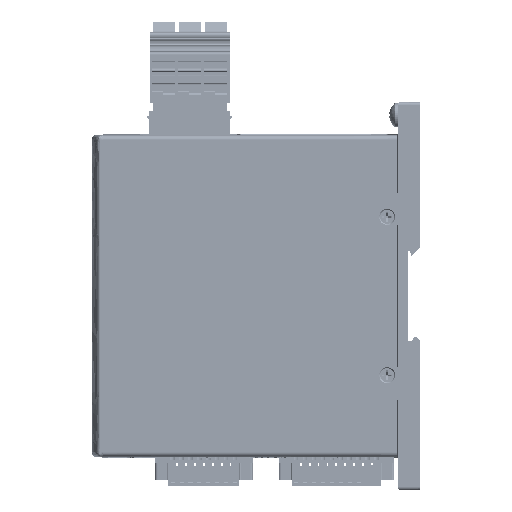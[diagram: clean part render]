
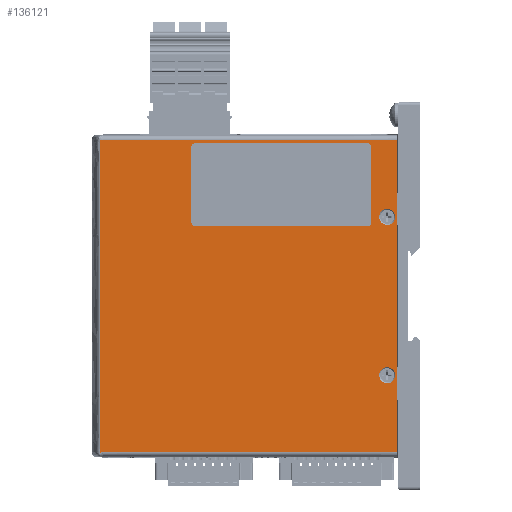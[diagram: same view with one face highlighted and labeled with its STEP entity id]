
A CAD part, left-side view. The second image highlights one B-rep face of the part: STEP entity #136121.
In plain terms, the highlighted planar face has unit normal (-1, 0, 0) as drawn and (0, 0, -1) by its records, which use the part's own axes.
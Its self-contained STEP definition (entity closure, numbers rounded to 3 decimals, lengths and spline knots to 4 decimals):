
#2847=B_SPLINE_CURVE_WITH_KNOTS('',3,(#196868,#196869,#196870,#196871),
 .UNSPECIFIED.,.F.,.F.,(4,4),(0.5,1.),.UNSPECIFIED.);
#2849=B_SPLINE_CURVE_WITH_KNOTS('',3,(#196918,#196919,#196920,#196921),
 .UNSPECIFIED.,.F.,.F.,(4,4),(0.,0.5),.UNSPECIFIED.);
#2863=B_SPLINE_CURVE_WITH_KNOTS('',3,(#197353,#197354,#197355,#197356),
 .UNSPECIFIED.,.F.,.F.,(4,4),(0.5,1.),.UNSPECIFIED.);
#2865=B_SPLINE_CURVE_WITH_KNOTS('',3,(#197428,#197429,#197430,#197431),
 .UNSPECIFIED.,.F.,.F.,(4,4),(0.,0.5),.UNSPECIFIED.);
#4153=ELLIPSE('',#144308,0.05,0.05);
#4155=ELLIPSE('',#144312,0.05,0.05);
#4158=ELLIPSE('',#144318,0.05,0.05);
#4159=ELLIPSE('',#144321,0.05,0.05);
#4896=FACE_BOUND('',#19966,.T.);
#4897=FACE_BOUND('',#19967,.T.);
#4898=FACE_BOUND('',#19968,.T.);
#6662=PLANE('',#144594);
#12352=FACE_OUTER_BOUND('',#19965,.T.);
#19965=EDGE_LOOP('',(#102735,#102736,#102737,#102738,#102739,#102740,#102741,
#102742));
#19966=EDGE_LOOP('',(#102743,#102744,#102745,#102746,#102747,#102748,#102749,
#102750));
#19967=EDGE_LOOP('',(#102751));
#19968=EDGE_LOOP('',(#102752));
#29557=LINE('',#207896,#44756);
#29563=LINE('',#207917,#44762);
#29566=LINE('',#207925,#44765);
#29568=LINE('',#207930,#44767);
#29599=LINE('',#208024,#44798);
#29822=LINE('',#209795,#45021);
#29823=LINE('',#209847,#45022);
#29825=LINE('',#209851,#45024);
#44756=VECTOR('',#160954,0.3937);
#44762=VECTOR('',#160974,0.3937);
#44765=VECTOR('',#160983,0.3937);
#44767=VECTOR('',#160991,0.3937);
#44798=VECTOR('',#161110,0.3937);
#45021=VECTOR('',#161777,0.3937);
#45022=VECTOR('',#161780,0.3937);
#45024=VECTOR('',#161786,0.3937);
#56682=CIRCLE('',#144356,0.124);
#56684=CIRCLE('',#144360,0.124);
#61357=VERTEX_POINT('',#196860);
#61358=VERTEX_POINT('',#196867);
#61360=VERTEX_POINT('',#196916);
#61377=VERTEX_POINT('',#197345);
#61378=VERTEX_POINT('',#197352);
#61380=VERTEX_POINT('',#197426);
#62654=VERTEX_POINT('',#207886);
#62655=VERTEX_POINT('',#207888);
#62657=VERTEX_POINT('',#207894);
#62660=VERTEX_POINT('',#207901);
#62661=VERTEX_POINT('',#207903);
#62665=VERTEX_POINT('',#207916);
#62666=VERTEX_POINT('',#207920);
#62667=VERTEX_POINT('',#207924);
#62675=VERTEX_POINT('',#207988);
#62677=VERTEX_POINT('',#207996);
#62685=VERTEX_POINT('',#208021);
#62686=VERTEX_POINT('',#208023);
#75452=EDGE_CURVE('',#61357,#61358,#2847,.T.);
#75456=EDGE_CURVE('',#61360,#61357,#2849,.T.);
#75478=EDGE_CURVE('',#61377,#61378,#2863,.T.);
#75482=EDGE_CURVE('',#61380,#61377,#2865,.T.);
#77305=EDGE_CURVE('',#62654,#62655,#4153,.T.);
#77309=EDGE_CURVE('',#62654,#62657,#29557,.T.);
#77312=EDGE_CURVE('',#62660,#62661,#4155,.T.);
#77319=EDGE_CURVE('',#62665,#62661,#29563,.T.);
#77321=EDGE_CURVE('',#62665,#62666,#4158,.T.);
#77323=EDGE_CURVE('',#62667,#62666,#29566,.T.);
#77325=EDGE_CURVE('',#62667,#62657,#4159,.T.);
#77326=EDGE_CURVE('',#62660,#62655,#29568,.T.);
#77351=EDGE_CURVE('',#62675,#62675,#56682,.T.);
#77355=EDGE_CURVE('',#62677,#62677,#56684,.T.);
#77369=EDGE_CURVE('',#62685,#62686,#29599,.T.);
#77717=EDGE_CURVE('',#61358,#61380,#29822,.T.);
#77718=EDGE_CURVE('',#62686,#61360,#29823,.T.);
#77720=EDGE_CURVE('',#61378,#62685,#29825,.T.);
#102735=ORIENTED_EDGE('',*,*,#77369,.F.);
#102736=ORIENTED_EDGE('',*,*,#77720,.F.);
#102737=ORIENTED_EDGE('',*,*,#75478,.F.);
#102738=ORIENTED_EDGE('',*,*,#75482,.F.);
#102739=ORIENTED_EDGE('',*,*,#77717,.F.);
#102740=ORIENTED_EDGE('',*,*,#75452,.F.);
#102741=ORIENTED_EDGE('',*,*,#75456,.F.);
#102742=ORIENTED_EDGE('',*,*,#77718,.F.);
#102743=ORIENTED_EDGE('',*,*,#77319,.T.);
#102744=ORIENTED_EDGE('',*,*,#77312,.F.);
#102745=ORIENTED_EDGE('',*,*,#77326,.T.);
#102746=ORIENTED_EDGE('',*,*,#77305,.F.);
#102747=ORIENTED_EDGE('',*,*,#77309,.T.);
#102748=ORIENTED_EDGE('',*,*,#77325,.F.);
#102749=ORIENTED_EDGE('',*,*,#77323,.T.);
#102750=ORIENTED_EDGE('',*,*,#77321,.F.);
#102751=ORIENTED_EDGE('',*,*,#77351,.T.);
#102752=ORIENTED_EDGE('',*,*,#77355,.T.);
#136121=ADVANCED_FACE('',(#12352,#4896,#4897,#4898),#6662,.F.);
#144308=AXIS2_PLACEMENT_3D('',#207889,#160947,#160948);
#144312=AXIS2_PLACEMENT_3D('',#207904,#160960,#160961);
#144318=AXIS2_PLACEMENT_3D('',#207921,#160978,#160979);
#144321=AXIS2_PLACEMENT_3D('',#207928,#160987,#160988);
#144356=AXIS2_PLACEMENT_3D('',#207989,#161075,#161076);
#144360=AXIS2_PLACEMENT_3D('',#207997,#161085,#161086);
#144594=AXIS2_PLACEMENT_3D('',#209909,#161791,#161792);
#160947=DIRECTION('center_axis',(0.,0.,-1.));
#160948=DIRECTION('ref_axis',(0.707,-0.707,0.));
#160954=DIRECTION('',(0.,1.,0.));
#160960=DIRECTION('center_axis',(0.,0.,-1.));
#160961=DIRECTION('ref_axis',(-0.707,-0.707,0.));
#160974=DIRECTION('',(0.,-1.,0.));
#160978=DIRECTION('center_axis',(0.,0.,-1.));
#160979=DIRECTION('ref_axis',(-0.707,0.707,0.));
#160983=DIRECTION('',(-1.,0.,0.));
#160987=DIRECTION('center_axis',(0.,0.,-1.));
#160988=DIRECTION('ref_axis',(0.707,0.707,0.));
#160991=DIRECTION('',(1.,0.,0.));
#161075=DIRECTION('center_axis',(0.,0.,1.));
#161076=DIRECTION('ref_axis',(-1.,0.,0.));
#161085=DIRECTION('center_axis',(0.,0.,1.));
#161086=DIRECTION('ref_axis',(-1.,0.,0.));
#161110=DIRECTION('',(1.,0.,0.));
#161777=DIRECTION('',(-1.,0.,0.));
#161780=DIRECTION('',(0.,1.,0.));
#161786=DIRECTION('',(0.,-1.,0.));
#161791=DIRECTION('center_axis',(0.,0.,1.));
#161792=DIRECTION('ref_axis',(1.,0.,0.));
#196860=CARTESIAN_POINT('',(-0.0673,4.5777,0.));
#196867=CARTESIAN_POINT('',(-0.0743,4.5989,0.));
#196868=CARTESIAN_POINT('Ctrl Pts',(-0.0673,4.5777,
0.));
#196869=CARTESIAN_POINT('Ctrl Pts',(-0.0649,4.5895,
0.));
#196870=CARTESIAN_POINT('Ctrl Pts',(-0.0649,4.5989,
0.));
#196871=CARTESIAN_POINT('Ctrl Pts',(-0.0743,4.5989,
0.));
#196916=CARTESIAN_POINT('',(-0.0743,4.5422,0.));
#196918=CARTESIAN_POINT('Ctrl Pts',(-0.0743,4.5422,
0.));
#196919=CARTESIAN_POINT('Ctrl Pts',(-0.0743,4.5517,
0.));
#196920=CARTESIAN_POINT('Ctrl Pts',(-0.0696,4.5658,
0.));
#196921=CARTESIAN_POINT('Ctrl Pts',(-0.0673,4.5777,
0.));
#197345=CARTESIAN_POINT('',(-4.9067,4.5777,0.));
#197352=CARTESIAN_POINT('',(-4.8997,4.5422,0.));
#197353=CARTESIAN_POINT('Ctrl Pts',(-4.9067,4.5777,
0.));
#197354=CARTESIAN_POINT('Ctrl Pts',(-4.9044,4.5658,
0.));
#197355=CARTESIAN_POINT('Ctrl Pts',(-4.8997,4.5517,
0.));
#197356=CARTESIAN_POINT('Ctrl Pts',(-4.8997,4.5422,
0.));
#197426=CARTESIAN_POINT('',(-4.8997,4.5989,0.));
#197428=CARTESIAN_POINT('Ctrl Pts',(-4.8997,4.5989,
0.));
#197429=CARTESIAN_POINT('Ctrl Pts',(-4.9091,4.5989,
0.));
#197430=CARTESIAN_POINT('Ctrl Pts',(-4.9091,4.5895,
0.));
#197431=CARTESIAN_POINT('Ctrl Pts',(-4.9067,4.5777,
0.));
#207886=CARTESIAN_POINT('',(-3.5697,0.45,0.));
#207888=CARTESIAN_POINT('',(-3.6196,0.4,0.));
#207889=CARTESIAN_POINT('Origin',(-3.6197,0.45,0.));
#207894=CARTESIAN_POINT('',(-3.5697,3.13,0.));
#207896=CARTESIAN_POINT('',(-3.5697,2.7398,0.));
#207901=CARTESIAN_POINT('',(-4.7997,0.4,0.));
#207903=CARTESIAN_POINT('',(-4.8497,0.45,0.));
#207904=CARTESIAN_POINT('Origin',(-4.7996,0.45,0.));
#207916=CARTESIAN_POINT('',(-4.8497,3.13,0.));
#207917=CARTESIAN_POINT('',(-4.8497,1.3498,0.));
#207920=CARTESIAN_POINT('',(-4.7997,3.18,0.));
#207921=CARTESIAN_POINT('Origin',(-4.7996,3.13,0.));
#207924=CARTESIAN_POINT('',(-3.6196,3.18,0.));
#207925=CARTESIAN_POINT('',(-3.6683,3.18,0.));
#207928=CARTESIAN_POINT('Origin',(-3.6197,3.13,0.));
#207930=CARTESIAN_POINT('',(-3.0283,0.4,0.));
#207988=CARTESIAN_POINT('',(-3.588,0.152,0.));
#207989=CARTESIAN_POINT('Origin',(-3.712,0.152,0.));
#207996=CARTESIAN_POINT('',(-1.138,0.152,0.));
#207997=CARTESIAN_POINT('Origin',(-1.262,0.152,0.));
#208021=CARTESIAN_POINT('',(-4.8997,0.,0.));
#208023=CARTESIAN_POINT('',(-0.0743,0.,0.));
#208024=CARTESIAN_POINT('',(-4.974,0.,0.));
#209795=CARTESIAN_POINT('',(0.,4.5989,0.));
#209847=CARTESIAN_POINT('',(-0.0743,3.4493,0.));
#209851=CARTESIAN_POINT('',(-4.8997,1.1498,0.));
#209909=CARTESIAN_POINT('Origin',(-2.487,2.2995,0.));
